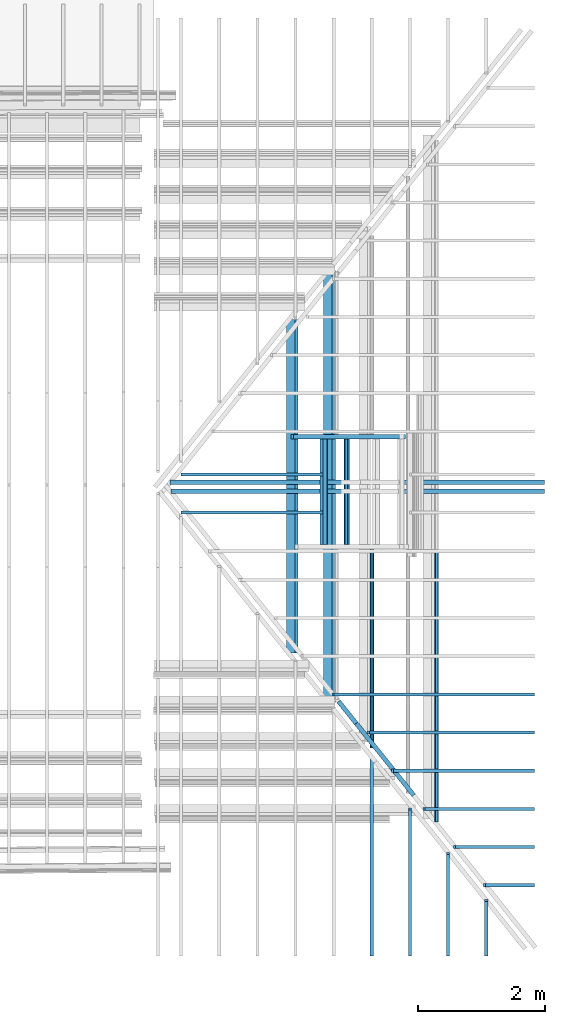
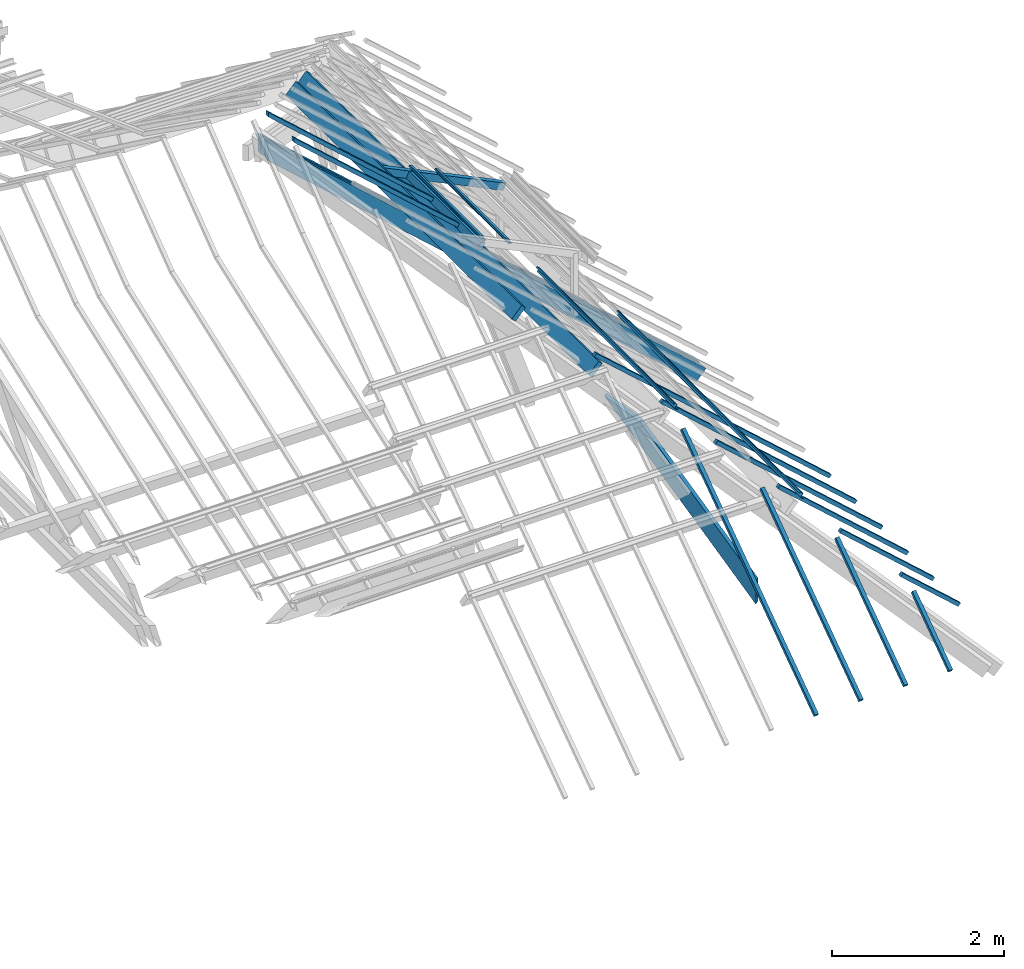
# One storey, part 12 of 18: 23 beams.
"""IFC2X3 building model written with IfcOpenShell, lengths in centimetres."""

import ifcopenshell
import ifcopenshell.guid

model = None  # the IFC model being written
_history = None  # IfcOwnerHistory: only IFC2X3 demands one
_inside = {}  # id of a spatial element -> (the spatial element, [elements in it])
_under = {}  # id of a project, library or spatial element -> (it, [spatial elements below it])
_declared = {}  # id of a project -> (the project, [libraries it declares])
_typed = {}  # id of a type object -> (the type object, [elements of that type])
_made_of = {}  # id of a material, layer set ... -> (it, [elements and type objects made of it])


def new_model(schema):
    """Start an empty IFC model of exactly this schema.

    Asked for "IFC4X3", IfcOpenShell would pick the latest addendum, in which some entities
    have other attributes; the version numbers below select the first issue.
    IFC2X3 requires an IfcOwnerHistory on every rooted entity: one is made here for all.
    """
    global model, _history
    if schema == "IFC4X3":
        model = ifcopenshell.file(schema_version=(4, 3, 0, 0))
    else:
        model = ifcopenshell.file(schema=schema)
    _inside.clear()
    _under.clear()
    _declared.clear()
    _typed.clear()
    _made_of.clear()
    _history = None
    if model.schema == "IFC2X3":
        org = make("IfcOrganization", Name="unknown")
        user = make(
            "IfcPersonAndOrganization",
            ThePerson=make("IfcPerson", FamilyName="unknown"),
            TheOrganization=org,
        )
        app = make(
            "IfcApplication",
            ApplicationDeveloper=org,
            Version="unknown",
            ApplicationFullName="unknown",
            ApplicationIdentifier="unknown",
        )
        _history = make(
            "IfcOwnerHistory",
            OwningUser=user,
            OwningApplication=app,
            ChangeAction="ADDED",
            CreationDate=0,
        )
    return model


def make(cls, **values):
    """One entity of the class cls with the attributes given. An attribute that is None is left unset."""
    return model.create_entity(
        cls, **{name: value for name, value in values.items() if value is not None}
    )


def entity(cls, *values):
    """Any entity or typed value of the class cls, its attributes in the order of the schema. None: left unset."""
    e = model.create_entity(cls)
    for i, value in enumerate(values):
        if value is not None:
            e[i] = value
    return e


def rooted(cls, **values):
    """An entity with a GlobalId (a new one), such as an element, a storey or a relation."""
    return make(cls, GlobalId=ifcopenshell.guid.new(), OwnerHistory=_history, **values)


def si_unit(unit_type, name, prefix=None):
    """IfcSIUnit, for example si_unit("LENGTHUNIT", "METRE", prefix="MILLI")."""
    return make("IfcSIUnit", UnitType=unit_type, Prefix=prefix, Name=name)


def converted_unit(unit_type, name, factor, base, dimensions=None, offset=None):
    """IfcConversionBasedUnit, such as the inch: factor (a typed value) times the base unit."""
    return make(
        "IfcConversionBasedUnit"
        if offset is None
        else "IfcConversionBasedUnitWithOffset",
        ConversionOffset=offset,
        Dimensions=None
        if dimensions is None
        else entity("IfcDimensionalExponents", *dimensions),
        UnitType=unit_type,
        Name=name,
        ConversionFactor=make(
            "IfcMeasureWithUnit", ValueComponent=factor, UnitComponent=base
        ),
    )


def assignment(units):
    """IfcUnitAssignment: the units of a project."""
    return None if units is None else make("IfcUnitAssignment", Units=units)


def point(xyz):
    """IfcCartesianPoint."""
    return None if xyz is None else make("IfcCartesianPoint", Coordinates=xyz)


def direction(xyz):
    """IfcDirection."""
    return None if xyz is None else make("IfcDirection", DirectionRatios=xyz)


def frame(location, z_axis=None, x_axis=None):
    """IfcAxis2Placement3D, a coordinate frame: its origin and axes. An axis left out is left unset."""
    return make(
        "IfcAxis2Placement3D",
        Location=point(location),
        Axis=direction(z_axis),
        RefDirection=direction(x_axis),
    )


def frame_2d(location, x_axis=None):
    """IfcAxis2Placement2D, a coordinate frame in the plane: its origin and x axis."""
    return make(
        "IfcAxis2Placement2D", Location=point(location), RefDirection=direction(x_axis)
    )


def origin():
    """The frame at (0, 0, 0) with its axes left unset."""
    return frame((0.0, 0.0, 0.0))


def place(relative_to, where):
    """IfcLocalPlacement: puts the frame where relative to a parent placement (None: the world)."""
    return make(
        "IfcLocalPlacement", PlacementRelTo=relative_to, RelativePlacement=where
    )


def context(
    kind, dimensions, precision=None, world=None, true_north=None, identifier=None
):
    """IfcGeometricRepresentationContext, for example the 3D "Model" context."""
    return make(
        "IfcGeometricRepresentationContext",
        ContextIdentifier=identifier,
        ContextType=kind,
        CoordinateSpaceDimension=dimensions,
        Precision=precision,
        WorldCoordinateSystem=world,
        TrueNorth=true_north,
    )


def subcontext(parent, identifier, kind, view, scale=None):
    """IfcGeometricRepresentationSubContext, for example "Body" below "Model"."""
    return make(
        "IfcGeometricRepresentationSubContext",
        ContextIdentifier=identifier,
        ContextType=kind,
        ParentContext=parent,
        TargetScale=scale,
        TargetView=view,
    )


def project(units=None, contexts=None):
    """IfcProject with its units and contexts."""
    return rooted(
        "IfcProject",
        Name="project",
        RepresentationContexts=contexts,
        UnitsInContext=assignment(units),
    )


def spatial(cls, under=None, at=None, **own):
    """A site, building, storey or space (cls), placed at a placement, below another one or the project."""
    s = rooted(cls, ObjectPlacement=at, **own)
    if under is not None:
        _under.setdefault(under.id(), (under, []))[1].append(s)
    return s


def polyline(points):
    """IfcPolyline through the points."""
    return make("IfcPolyline", Points=[point(p) for p in points])


def circle_curve(where, radius):
    """IfcCircle in the frame where."""
    return make("IfcCircle", Position=where, Radius=radius)


def parameter(value):
    """IfcParameterValue: where a trimmed curve begins or ends, as a parameter of its basis curve."""
    return model.create_entity("IfcParameterValue", value)


def trimmed(basis, trim1, trim2, sense, master):
    """IfcTrimmedCurve: the piece of a basis curve between two trims."""
    return make(
        "IfcTrimmedCurve",
        BasisCurve=basis,
        Trim1=trim1,
        Trim2=trim2,
        SenseAgreement=sense,
        MasterRepresentation=master,
    )


def segment(curve, same_sense, transition):
    """IfcCompositeCurveSegment."""
    return make(
        "IfcCompositeCurveSegment",
        Transition=transition,
        SameSense=same_sense,
        ParentCurve=curve,
    )


def composite_curve(segments, self_intersect=None):
    """IfcCompositeCurve: segments joined end to end."""
    return make("IfcCompositeCurve", Segments=segments, SelfIntersect=self_intersect)


def profile(cls, at=None, kind="AREA", **sizes):
    """A parametric profile (cls). Its sizes go by their IFC names, for example OverallWidth=200.0."""
    return make(cls, ProfileType=kind, Position=at, **sizes)


def rectangle(**sizes):
    """IfcRectangleProfileDef."""
    return profile("IfcRectangleProfileDef", **sizes)


def outline(outer, holes=None, kind="AREA"):
    """IfcArbitraryClosedProfileDef: a profile drawn as a closed curve; with holes, ...WithVoids."""
    if holes is None:
        return make("IfcArbitraryClosedProfileDef", ProfileType=kind, OuterCurve=outer)
    return make(
        "IfcArbitraryProfileDefWithVoids",
        ProfileType=kind,
        OuterCurve=outer,
        InnerCurves=holes,
    )


def extrude(swept, where, along, depth):
    """IfcExtrudedAreaSolid: the profile swept, set in the frame where, extruded along a direction by depth."""
    return make(
        "IfcExtrudedAreaSolid",
        SweptArea=swept,
        Position=where,
        ExtrudedDirection=direction(along),
        Depth=depth,
    )


def clip(a, b, op="DIFFERENCE"):
    """IfcBooleanClippingResult: the solid a cut by the half space b."""
    return make(
        "IfcBooleanClippingResult", Operator=op, FirstOperand=a, SecondOperand=b
    )


def halfspace(plane, agree):
    """IfcHalfSpaceSolid: all space on one side of the plane z = 0 of the frame plane."""
    return make(
        "IfcHalfSpaceSolid",
        BaseSurface=make("IfcPlane", Position=plane),
        AgreementFlag=agree,
    )


def shape(context_of_items, identifier, shape_type, items):
    """IfcShapeRepresentation: the items that make up one representation, for example the "Body"."""
    return make(
        "IfcShapeRepresentation",
        ContextOfItems=context_of_items,
        RepresentationIdentifier=identifier,
        RepresentationType=shape_type,
        Items=items,
    )


def material(Name=None, Category=None):
    """IfcMaterial."""
    return make("IfcMaterial", Name=Name, Category=Category)


def made_of(thing, what):
    """Note that an element or type object is made of a material, layer set ...; save() writes the relation."""
    if what is not None:
        _made_of.setdefault(what.id(), (what, []))[1].append(thing)
    return thing


def type_object(cls, material=None, **own):
    """A type object (cls), such as IfcWallType, which elements share."""
    return made_of(rooted(cls, **own), material)


def element(
    cls,
    number,
    at=None,
    inside=None,
    cuts=None,
    type_object=None,
    material=None,
    context=None,
    identifier="Body",
    shape_type=None,
    held_by="IfcProductDefinitionShape",
    body=None,
    shapes=None,
    **own,
):
    """One element of the class cls, such as IfcWall. Its Tag is "e" and its number.

    at: its placement. inside: the storey or other place that contains it. cuts: it is an
    opening in that element (IfcRelVoidsElement). A single representation is given by context,
    identifier, shape_type and body (its items); several are given by shapes. held_by: the class
    of the entity that holds the representations. save() writes the other relations.
    """
    e = rooted(cls, Tag="e%d" % number, ObjectPlacement=at, **own)
    if body is not None:
        shapes = [shape(context, identifier, shape_type, body)]
    if shapes is not None:
        e.Representation = make(held_by, Representations=shapes)
    if inside is not None:
        _inside.setdefault(inside.id(), (inside, []))[1].append(e)
    if cuts is not None:
        rooted(
            "IfcRelVoidsElement", RelatingBuildingElement=cuts, RelatedOpeningElement=e
        )
    if type_object is not None:
        _typed.setdefault(type_object.id(), (type_object, []))[1].append(e)
    return made_of(e, material)


def aggregate(whole, parts):
    """IfcRelAggregates: a whole, such as a stair, and the parts it consists of."""
    return rooted("IfcRelAggregates", RelatingObject=whole, RelatedObjects=parts)


def save(model, path):
    """Write the relations noted so far, then the file.

    IfcRelAggregates (storeys below a building ...), IfcRelContainedInSpatialStructure (elements
    in a storey), IfcRelDefinesByType, IfcRelAssociatesMaterial and IfcRelDeclares: one each for
    every whole, place, type object, material and project.
    """
    for whole, parts in _under.values():
        aggregate(whole, parts)
    for where, things in _inside.values():
        rooted(
            "IfcRelContainedInSpatialStructure",
            RelatedElements=things,
            RelatingStructure=where,
        )
    for kind, things in _typed.values():
        rooted("IfcRelDefinesByType", RelatedObjects=things, RelatingType=kind)
    for what, things in _made_of.values():
        rooted("IfcRelAssociatesMaterial", RelatedObjects=things, RelatingMaterial=what)
    for by, libraries in _declared.values():
        rooted("IfcRelDeclares", RelatingContext=by, RelatedDefinitions=libraries)
    model.write(path)


model = new_model("IFC2X3")

# Units and contexts
model_context = context("Model", 3, precision=0.001, world=frame((0.0, 0.0, 13090.0)), true_north=direction((6.123233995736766e-17, 1.0)))
body_context = subcontext(model_context, "Body", "Model", "MODEL_VIEW")
ifc_project = project(units=[si_unit("LENGTHUNIT", "METRE", prefix="CENTI"), si_unit("AREAUNIT", "SQUARE_METRE"), si_unit("VOLUMEUNIT", "CUBIC_METRE"), converted_unit("PLANEANGLEUNIT", "DEGREE", entity("IfcPlaneAngleMeasure", 0.017453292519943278), si_unit("PLANEANGLEUNIT", "RADIAN"), dimensions=[0, 0, 0, 0, 0, 0, 0])], contexts=[model_context])

# Site, building, storey
site_placement = place(None, origin())
site = spatial("IfcSite", under=ifc_project, at=site_placement, Name="Default", CompositionType="ELEMENT")
building_placement = place(site_placement, origin())
building = spatial("IfcBuilding", under=site, at=building_placement, Name="e 39 logements et 22 maisons relais", CompositionType="ELEMENT")
storey_placement = place(building_placement, frame((0.0, 0.0, 610.0)))
storey = spatial("IfcBuildingStorey", under=building, at=storey_placement, Name="R+2", CompositionType="ELEMENT", Elevation=609.9999999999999)

# Beams
ifc_material_1 = material(Name="Bois - Bois de construction de dimensions courantes")
beam_type_1 = type_object("IfcBeamType", Name="Poutre - Bois de construction de dimensions courantes:70 200", PredefinedType="BEAM")
beam_1_placement = place(storey_placement, frame((890.6780898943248, 514.007667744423, 25.511644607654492), z_axis=(0.0, 0.0, 1.0), x_axis=(0.0, -1.0, 0.0)))
element("IfcBeam", 1, at=beam_1_placement, inside=storey, type_object=beam_type_1, material=ifc_material_1, Name="Poutre - Bois de construction de dimensions courantes:70 200", ObjectType="Poutre - Bois de construction de dimensions courantes:70 200", context=body_context, shape_type="SweptSolid", body=[
    extrude(rectangle(XDim=19.999999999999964, YDim=7.00000000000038, at=frame_2d((-7.616129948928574e-14, 4.440892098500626e-15), x_axis=(0.0, 1.0))), frame((196.89081058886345, -6.691306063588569, -7.4314482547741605), z_axis=(1.0, 0.0, 0.0), x_axis=(0.0, -0.7431448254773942, 0.6691306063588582)), (0.0, 0.0, 1.0), 679.5707975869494),
])
beam_2_placement = place(storey_placement, frame((832.2466658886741, 514.0076677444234, 77.90330575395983), z_axis=(0.0, 0.0, 1.0), x_axis=(0.0, -1.0, 0.0)))
element("IfcBeam", 2, at=beam_2_placement, inside=storey, type_object=beam_type_1, material=ifc_material_1, Name="Poutre - Bois de construction de dimensions courantes:70 200", ObjectType="Poutre - Bois de construction de dimensions courantes:70 200", context=body_context, shape_type="SweptSolid", body=[
    extrude(rectangle(XDim=19.999999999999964, YDim=7.000000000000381, at=frame_2d((7.616129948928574e-14, -4.440892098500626e-15), x_axis=(0.0, 1.0))), frame((273.8319101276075, -6.691306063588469, -7.4314482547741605), z_axis=(1.0, 0.0, 0.0), x_axis=(0.0, -0.7431448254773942, 0.6691306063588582)), (0.0, 0.0, 1.0), 524.8274133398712),
])
beam_3_placement = place(storey_placement, frame((1011.2170060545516, -501.6326408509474, -92.30873544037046), z_axis=(0.9252385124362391, 0.19438072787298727, 0.3258064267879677), x_axis=(-0.37938594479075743, 0.47405165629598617, 0.7945699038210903)))
element("IfcBeam", 3, at=beam_3_placement, inside=storey, type_object=beam_type_1, material=ifc_material_1, Name="Poutre - Bois de construction de dimensions courantes:70 200", ObjectType="Poutre - Bois de construction de dimensions courantes:70 200", context=body_context, shape_type="Clipping", body=[
    clip(clip(extrude(rectangle(XDim=19.999999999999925, YDim=7.000000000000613, at=frame_2d((-3.375077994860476e-14, -3.375077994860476e-14), x_axis=(0.0, 1.0))), frame((-146.96962917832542, -77.6332145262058, -49.36683099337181), z_axis=(1.0, 0.0, 0.0), x_axis=(0.0, -0.5365959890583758, 0.8438392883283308)), (0.0, 0.0, 1.0), 310.9770128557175), halfspace(frame((-76.83597434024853, 228.07675023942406, -448.88018274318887), z_axis=(-0.6071726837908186, 0.6704893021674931, 0.42636302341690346), x_axis=(0.0, -0.5365959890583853, 0.8438392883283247)), False)), halfspace(frame((73.5846626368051, -322.24935751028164, 388.99597962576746), z_axis=(0.3943864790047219, 0.7754416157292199, 0.493102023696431), x_axis=(0.0, 0.5365959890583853, -0.8438392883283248)), False)),
])
beam_4_placement = place(storey_placement, frame((1102.5040541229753, -15.897903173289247, -54.28361156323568), z_axis=(0.66757939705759, 0.0, 0.7445386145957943), x_axis=(-0.7445386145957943, 0.0, 0.66757939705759)))
element("IfcBeam", 4, at=beam_4_placement, inside=storey, type_object=beam_type_1, material=ifc_material_1, Name="Poutre - Bois de construction de dimensions courantes:70 200", ObjectType="Poutre - Bois de construction de dimensions courantes:70 200", context=body_context, shape_type="Clipping", body=[
    clip(extrude(rectangle(XDim=20.000000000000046, YDim=7.000000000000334, at=frame_2d((8.08242361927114e-14, -1.7763568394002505e-15), x_axis=(1.0, 0.0))), frame((-252.47009132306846, 0.0, -112.0), z_axis=(1.0, 0.0, 0.0), x_axis=(0.0, 0.0, -1.0)), (0.0, 0.0, 1.0), 791.604308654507), halfspace(frame((507.028500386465, 830.52348777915, -137.70467255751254), z_axis=(0.743589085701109, 0.0, -0.6686368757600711), x_axis=(0.0, -1.0, 0.0)), False)),
])
beam_5_placement = place(storey_placement, frame((1117.3037354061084, -29.897903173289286, -40.69125047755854), z_axis=(0.6675793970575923, 0.0, 0.7445386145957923), x_axis=(-0.7445386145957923, 0.0, 0.6675793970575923)))
element("IfcBeam", 5, at=beam_5_placement, inside=storey, type_object=beam_type_1, material=ifc_material_1, Name="Poutre - Bois de construction de dimensions courantes:70 200", ObjectType="Poutre - Bois de construction de dimensions courantes:70 200", context=body_context, shape_type="Clipping", body=[
    clip(extrude(rectangle(XDim=20.00000000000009, YDim=7.000000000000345, at=frame_2d((-9.237055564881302e-14, -6.8833827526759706e-15), x_axis=(1.0, 0.0))), frame((-250.55143447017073, 0.0, -132.0), z_axis=(1.0, 0.0, 0.0), x_axis=(0.0, 0.0, -1.0)), (0.0, 0.0, 1.0), 789.6856518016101), halfspace(frame((507.0285003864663, 828.6048309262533, -157.70467255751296), z_axis=(0.7435890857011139, 0.0, -0.6686368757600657), x_axis=(0.0, -1.0, 0.0)), False)),
])
beam_type_2 = type_object("IfcBeamType", Name="Poutre - Bois de construction de dimensions courantes:70 100", PredefinedType="BEAM")
beam_6_placement = place(storey_placement, frame((1003.4066515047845, 55.70209682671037, 77.53294707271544), z_axis=(0.43504605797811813, 0.0, 0.9004082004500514), x_axis=(-0.9004082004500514, 0.0, 0.43504605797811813)))
element("IfcBeam", 6, at=beam_6_placement, inside=storey, type_object=beam_type_2, material=ifc_material_1, Name="Poutre - Bois de construction de dimensions courantes:70 100", ObjectType="Poutre - Bois de construction de dimensions courantes:70 100", context=body_context, shape_type="SweptSolid", body=[
    extrude(rectangle(XDim=10.000000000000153, YDim=7.00000000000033, at=frame_2d((-9.592326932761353e-14, -3.3306690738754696e-15), x_axis=(1.0, 0.0))), frame((-38.964063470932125, 0.0, -85.0), z_axis=(1.0, 0.0, 0.0), x_axis=(0.0, 0.0, -1.0)), (0.0, 0.0, 1.0), 195.503569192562),
])
beam_7_placement = place(storey_placement, frame((912.0134859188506, 147.73427520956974, 123.93431916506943), z_axis=(0.0, 0.0, 1.0), x_axis=(0.0, -1.0, 0.0)))
element("IfcBeam", 7, at=beam_7_placement, inside=storey, type_object=beam_type_2, material=ifc_material_1, Name="Poutre - Bois de construction de dimensions courantes:70 100", ObjectType="Poutre - Bois de construction de dimensions courantes:70 100", context=body_context, shape_type="SweptSolid", body=[
    extrude(rectangle(XDim=10.000000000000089, YDim=7.000000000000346, at=frame_2d((-9.50350909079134e-14, 7.460698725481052e-14), x_axis=(0.0, 1.0))), frame((95.56011376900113, -37.454465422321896, -78.52491973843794), z_axis=(1.0, 0.0, 0.0), x_axis=(0.0, -0.902585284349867, 0.43051109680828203)), (0.0, 0.0, 1.0), 165.75517344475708),
])
ifc_material_2 = material(Name="neuf")
beam_type_3 = type_object("IfcBeamType", Name="panne z:panne z", PredefinedType="BEAM")
beam_8_placement = place(storey_placement, frame((963.2348899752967, 514.0076677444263, -1.0400346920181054), z_axis=(0.0, 0.0, 1.0), x_axis=(0.0, -1.0, 0.0)))
element("IfcBeam", 8, at=beam_8_placement, inside=storey, type_object=beam_type_3, material=ifc_material_2, Name="panne z:panne z", ObjectType="panne z:panne z", context=body_context, shape_type="SweptSolid", body=[
    extrude(outline(composite_curve([segment(polyline([(0.29999999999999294, -3.0), (4.599999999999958, -3.0)]), True, "CONTINUOUS"), segment(trimmed(circle_curve(frame_2d((4.600000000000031, -2.5999999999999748), x_axis=(0.0, -1.0)), 0.399999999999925), [parameter(0.0)], [parameter(90.000000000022)], True, "PARAMETER"), True, "CONTINUOUS"), segment(polyline([(5.0, -2.5999999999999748), (5.0, -1.0)]), True, "CONTINUOUS"), segment(polyline([(5.0, -1.0), (4.800000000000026, -1.0)]), True, "CONTINUOUS"), segment(polyline([(4.800000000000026, -1.0), (4.800000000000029, -2.599999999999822)]), True, "CONTINUOUS"), segment(trimmed(circle_curve(frame_2d((4.599999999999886, -2.599999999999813), x_axis=(1.0, 0.0)), 0.20000000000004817), [parameter(270.0000000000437)], [parameter(0.0)], True, "PARAMETER"), False, "CONTINUOUS"), segment(polyline([(4.600000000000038, -2.7999999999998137), (0.30000000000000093, -2.7999999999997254)]), True, "CONTINUOUS"), segment(trimmed(circle_curve(frame_2d((0.2999999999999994, -2.5999999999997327), x_axis=(0.0, -1.0)), 0.2000000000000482), [parameter(270.0000000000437)], [parameter(0.0)], True, "PARAMETER"), False, "CONTINUOUS"), segment(polyline([(0.1000000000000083, -2.5999999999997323), (0.10000000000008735, 2.6000000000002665)]), True, "CONTINUOUS"), segment(trimmed(circle_curve(frame_2d((-0.2999999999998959, 2.6000000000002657), x_axis=(1.0, 0.0)), 0.399999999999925), [parameter(0.0)], [parameter(90.000000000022)], True, "PARAMETER"), True, "CONTINUOUS"), segment(polyline([(-0.29999999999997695, 3.0), (-4.599999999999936, 3.0)]), True, "CONTINUOUS"), segment(trimmed(circle_curve(frame_2d((-4.6000000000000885, 2.6000000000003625), x_axis=(0.0, 1.0)), 0.399999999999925), [parameter(0.0)], [parameter(90.000000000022)], True, "PARAMETER"), True, "CONTINUOUS"), segment(polyline([(-5.0, 2.6000000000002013), (-5.0, 1.0)]), True, "CONTINUOUS"), segment(polyline([(-5.0, 1.0), (-4.7999999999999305, 1.0)]), True, "CONTINUOUS"), segment(polyline([(-4.7999999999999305, 1.0), (-4.799999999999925, 2.600000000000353)]), True, "CONTINUOUS"), segment(trimmed(circle_curve(frame_2d((-4.599999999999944, 2.6000000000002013), x_axis=(-1.0, 0.0)), 0.20000000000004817), [parameter(270.0000000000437)], [parameter(0.0)], True, "PARAMETER"), False, "CONTINUOUS"), segment(polyline([(-4.599999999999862, 2.8000000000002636), (-0.29999999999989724, 2.8000000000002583)]), True, "CONTINUOUS"), segment(trimmed(circle_curve(frame_2d((-0.3000000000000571, 2.6000000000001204), x_axis=(0.0, 1.0)), 0.2000000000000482), [parameter(270.0000000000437)], [parameter(0.0)], True, "PARAMETER"), False, "CONTINUOUS"), segment(polyline([(-0.09999999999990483, 2.6000000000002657), (-0.0999999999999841, -2.5999999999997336)]), True, "CONTINUOUS"), segment(trimmed(circle_curve(frame_2d((0.2999999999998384, -2.599999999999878), x_axis=(-1.0, 0.0)), 0.399999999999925), [parameter(0.0)], [parameter(90.000000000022)], True, "PARAMETER"), True, "CONTINUOUS")], self_intersect=False)), frame((627.6166151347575, -12.500988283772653, -13.883754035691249), z_axis=(1.0, 0.0, 0.0), x_axis=(0.0, -0.7431448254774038, 0.6691306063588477)), (0.0, 0.0, 1.0), 320.0905581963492),
])
beam_9_placement = place(storey_placement, frame((919.2018570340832, 514.0076677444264, 55.580776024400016), z_axis=(0.0, 0.0, 1.0), x_axis=(0.0, -1.0, 0.0)))
element("IfcBeam", 9, at=beam_9_placement, inside=storey, type_object=beam_type_3, material=ifc_material_2, Name="panne z:panne z", ObjectType="panne z:panne z", context=body_context, shape_type="SweptSolid", body=[
    extrude(outline(composite_curve([segment(polyline([(0.30000000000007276, -3.0), (4.600000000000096, -3.0)]), True, "CONTINUOUS"), segment(trimmed(circle_curve(frame_2d((4.600000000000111, -2.599999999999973), x_axis=(0.0, -1.0)), 0.3999999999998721), [parameter(0.0)], [parameter(90.0000000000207)], True, "PARAMETER"), True, "CONTINUOUS"), segment(polyline([(5.0, -2.600000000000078), (5.0, -1.0)]), True, "CONTINUOUS"), segment(polyline([(5.0, -1.0), (4.8000000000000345, -1.0)]), True, "CONTINUOUS"), segment(polyline([(4.800000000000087, -1.0), (4.8000000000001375, -2.5999999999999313)]), True, "CONTINUOUS"), segment(trimmed(circle_curve(frame_2d((4.600000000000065, -2.599999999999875), x_axis=(1.0, 0.0)), 0.20000000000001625), [parameter(269.9999999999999)], [parameter(0.0)], True, "PARAMETER"), False, "CONTINUOUS"), segment(polyline([(4.600000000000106, -2.799999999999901), (0.30000000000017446, -2.800000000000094)]), True, "CONTINUOUS"), segment(trimmed(circle_curve(frame_2d((0.3000000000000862, -2.59999999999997), x_axis=(0.0, -1.0)), 0.20000000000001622), [parameter(269.9999999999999)], [parameter(0.0)], True, "PARAMETER"), False, "CONTINUOUS"), segment(polyline([(0.10000000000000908, -2.6000000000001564), (0.09999999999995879, 2.5999999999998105)]), True, "CONTINUOUS"), segment(trimmed(circle_curve(frame_2d((-0.29999999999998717, 2.600000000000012), x_axis=(1.0, 0.0)), 0.3999999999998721), [parameter(0.0)], [parameter(90.0000000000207)], True, "PARAMETER"), True, "CONTINUOUS"), segment(polyline([(-0.3000000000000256, 3.0), (-4.600000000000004, 3.0)]), True, "CONTINUOUS"), segment(trimmed(circle_curve(frame_2d((-4.60000000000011, 2.5999999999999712), x_axis=(0.0, 1.0)), 0.3999999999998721), [parameter(0.0)], [parameter(90.0000000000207)], True, "PARAMETER"), True, "CONTINUOUS"), segment(polyline([(-5.0, 2.5999999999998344), (-5.0, 1.0)]), True, "CONTINUOUS"), segment(polyline([(-5.0, 1.0), (-4.799999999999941, 1.0)]), True, "CONTINUOUS"), segment(polyline([(-4.80000000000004, 1.0), (-4.800000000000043, 2.5999999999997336)]), True, "CONTINUOUS"), segment(trimmed(circle_curve(frame_2d((-4.600000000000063, 2.5999999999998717), x_axis=(-1.0, 0.0)), 0.20000000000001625), [parameter(269.9999999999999)], [parameter(0.0)], True, "PARAMETER"), False, "CONTINUOUS"), segment(polyline([(-4.600000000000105, 2.799999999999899), (-0.3000000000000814, 2.7999999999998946)]), True, "CONTINUOUS"), segment(trimmed(circle_curve(frame_2d((-0.3000000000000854, 2.599999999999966), x_axis=(0.0, 1.0)), 0.20000000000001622), [parameter(269.9999999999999)], [parameter(0.0)], True, "PARAMETER"), False, "CONTINUOUS"), segment(polyline([(-0.1000000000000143, 2.5999999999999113), (-0.09999999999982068, -2.6000000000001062)]), True, "CONTINUOUS"), segment(trimmed(circle_curve(frame_2d((0.2999999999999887, -2.6000000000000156), x_axis=(-1.0, 0.0)), 0.3999999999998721), [parameter(0.0)], [parameter(90.0000000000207)], True, "PARAMETER"), True, "CONTINUOUS")], self_intersect=False)), frame((461.8055709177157, -7.895537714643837, -16.932035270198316), z_axis=(1.0, 0.0, 0.0), x_axis=(0.0, -0.9063077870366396, 0.42261826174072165)), (0.0, 0.0, 1.0), 165.81104421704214),
])
beam_10_placement = place(storey_placement, frame((884.5434101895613, 514.0076677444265, 72.35425786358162), z_axis=(0.0, 0.0, 1.0), x_axis=(0.0, -1.0, 0.0)))
element("IfcBeam", 10, at=beam_10_placement, inside=storey, type_object=beam_type_3, material=ifc_material_2, Name="panne z:panne z", ObjectType="panne z:panne z", context=body_context, shape_type="SweptSolid", body=[
    extrude(outline(composite_curve([segment(polyline([(0.3000000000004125, -3.0), (4.600000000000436, -3.0)]), True, "CONTINUOUS"), segment(trimmed(circle_curve(frame_2d((4.600000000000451, -2.599999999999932), x_axis=(0.0, -1.0)), 0.3999999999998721), [parameter(0.0)], [parameter(90.0000000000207)], True, "PARAMETER"), True, "CONTINUOUS"), segment(polyline([(5.0, -2.600000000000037), (5.0, -1.0)]), True, "CONTINUOUS"), segment(polyline([(5.0, -1.0), (4.800000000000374, -1.0)]), True, "CONTINUOUS"), segment(polyline([(4.800000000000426, -1.0), (4.800000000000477, -2.599999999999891)]), True, "CONTINUOUS"), segment(trimmed(circle_curve(frame_2d((4.600000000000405, -2.5999999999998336), x_axis=(1.0, 0.0)), 0.20000000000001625), [parameter(269.9999999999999)], [parameter(0.0)], True, "PARAMETER"), False, "CONTINUOUS"), segment(polyline([(4.600000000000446, -2.7999999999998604), (0.3000000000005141, -2.800000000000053)]), True, "CONTINUOUS"), segment(trimmed(circle_curve(frame_2d((0.3000000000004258, -2.599999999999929), x_axis=(0.0, -1.0)), 0.20000000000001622), [parameter(269.9999999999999)], [parameter(0.0)], True, "PARAMETER"), False, "CONTINUOUS"), segment(polyline([(0.10000000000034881, -2.600000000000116), (0.10000000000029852, 2.5999999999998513)]), True, "CONTINUOUS"), segment(trimmed(circle_curve(frame_2d((-0.29999999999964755, 2.600000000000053), x_axis=(1.0, 0.0)), 0.3999999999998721), [parameter(0.0)], [parameter(90.0000000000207)], True, "PARAMETER"), True, "CONTINUOUS"), segment(polyline([(-0.29999999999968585, 3.0), (-4.599999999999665, 3.0)]), True, "CONTINUOUS"), segment(trimmed(circle_curve(frame_2d((-4.59999999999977, 2.6000000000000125), x_axis=(0.0, 1.0)), 0.3999999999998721), [parameter(0.0)], [parameter(90.0000000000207)], True, "PARAMETER"), True, "CONTINUOUS"), segment(polyline([(-5.0, 2.5999999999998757), (-5.0, 1.0)]), True, "CONTINUOUS"), segment(polyline([(-5.0, 1.0), (-4.799999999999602, 1.0)]), True, "CONTINUOUS"), segment(polyline([(-4.7999999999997, 1.0), (-4.799999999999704, 2.599999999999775)]), True, "CONTINUOUS"), segment(trimmed(circle_curve(frame_2d((-4.5999999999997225, 2.5999999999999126), x_axis=(-1.0, 0.0)), 0.20000000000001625), [parameter(269.9999999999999)], [parameter(0.0)], True, "PARAMETER"), False, "CONTINUOUS"), segment(polyline([(-4.599999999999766, 2.7999999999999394), (-0.2999999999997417, 2.799999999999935)]), True, "CONTINUOUS"), segment(trimmed(circle_curve(frame_2d((-0.2999999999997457, 2.600000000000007), x_axis=(0.0, 1.0)), 0.20000000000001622), [parameter(269.9999999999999)], [parameter(0.0)], True, "PARAMETER"), False, "CONTINUOUS"), segment(polyline([(-0.09999999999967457, 2.5999999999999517), (-0.09999999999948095, -2.600000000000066)]), True, "CONTINUOUS"), segment(trimmed(circle_curve(frame_2d((0.30000000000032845, -2.5999999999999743), x_axis=(-1.0, 0.0)), 0.3999999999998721), [parameter(0.0)], [parameter(90.0000000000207)], True, "PARAMETER"), True, "CONTINUOUS")], self_intersect=False)), frame((461.8055709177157, -7.8955377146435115, -16.932035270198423), z_axis=(1.0, 0.0, 0.0), x_axis=(0.0, -0.9063077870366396, 0.42261826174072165)), (0.0, 0.0, 1.0), 165.81104421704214),
])
beam_11_placement = place(storey_placement, frame((1065.052209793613, -46.0923322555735, -92.10594178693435), z_axis=(0.0, 0.0, 1.0), x_axis=(0.0, -1.0, 0.0)))
element("IfcBeam", 11, at=beam_11_placement, inside=storey, type_object=beam_type_3, material=ifc_material_2, Name="panne z:panne z", ObjectType="panne z:panne z", context=body_context, shape_type="SweptSolid", body=[
    extrude(outline(composite_curve([segment(polyline([(0.30000000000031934, -3.0), (4.600000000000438, -3.0)]), True, "CONTINUOUS"), segment(trimmed(circle_curve(frame_2d((4.600000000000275, -2.599999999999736), x_axis=(0.0, -1.0)), 0.3999999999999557), [parameter(0.0)], [parameter(90.0000000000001)], True, "PARAMETER"), True, "CONTINUOUS"), segment(polyline([(5.0, -2.599999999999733), (5.0, -1.0)]), True, "CONTINUOUS"), segment(polyline([(5.0, -1.0), (4.800000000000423, -1.0)]), True, "CONTINUOUS"), segment(polyline([(4.800000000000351, -1.0), (4.800000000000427, -2.59999999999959)]), True, "CONTINUOUS"), segment(trimmed(circle_curve(frame_2d((4.600000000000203, -2.599999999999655), x_axis=(1.0, 0.0)), 0.20000000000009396), [parameter(270.0000000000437)], [parameter(0.0)], True, "PARAMETER"), False, "CONTINUOUS"), segment(polyline([(4.600000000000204, -2.7999999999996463), (0.3000000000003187, -2.799999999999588)]), True, "CONTINUOUS"), segment(trimmed(circle_curve(frame_2d((0.29999999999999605, -2.5999999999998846), x_axis=(0.0, -1.0)), 0.19999999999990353), [parameter(269.9999999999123)], [parameter(0.0)], True, "PARAMETER"), False, "CONTINUOUS"), segment(polyline([(0.10000000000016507, -2.599999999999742), (0.10000000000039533, 2.600000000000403)]), True, "CONTINUOUS"), segment(trimmed(circle_curve(frame_2d((-0.2999999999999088, 2.6000000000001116), x_axis=(1.0, 0.0)), 0.4000000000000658), [parameter(0.0)], [parameter(89.99999999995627)], True, "PARAMETER"), True, "CONTINUOUS"), segment(polyline([(-0.2999999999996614, 3.0), (-4.599999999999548, 3.0)]), True, "CONTINUOUS"), segment(trimmed(circle_curve(frame_2d((-4.599999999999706, 2.600000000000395), x_axis=(0.0, 1.0)), 0.3999999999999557), [parameter(0.0)], [parameter(90.0000000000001)], True, "PARAMETER"), True, "CONTINUOUS"), segment(polyline([(-5.0, 2.6000000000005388), (-5.0, 1.0)]), True, "CONTINUOUS"), segment(polyline([(-5.0, 1.0), (-4.799999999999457, 1.0)]), True, "CONTINUOUS"), segment(polyline([(-4.7999999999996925, 1.0), (-4.799999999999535, 2.6000000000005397)]), True, "CONTINUOUS"), segment(trimmed(circle_curve(frame_2d((-4.599999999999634, 2.600000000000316), x_axis=(-1.0, 0.0)), 0.20000000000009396), [parameter(270.0000000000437)], [parameter(0.0)], True, "PARAMETER"), False, "CONTINUOUS"), segment(polyline([(-4.5999999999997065, 2.8000000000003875), (-0.2999999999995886, 2.8000000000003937)]), True, "CONTINUOUS"), segment(trimmed(circle_curve(frame_2d((-0.2999999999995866, 2.6000000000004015), x_axis=(0.0, 1.0)), 0.19999999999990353), [parameter(269.9999999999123)], [parameter(0.0)], True, "PARAMETER"), False, "CONTINUOUS"), segment(polyline([(-0.09999999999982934, 2.600000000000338), (-0.09999999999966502, -2.5999999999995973)]), True, "CONTINUOUS"), segment(trimmed(circle_curve(frame_2d((0.3000000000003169, -2.5999999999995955), x_axis=(-1.0, 0.0)), 0.4000000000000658), [parameter(0.0)], [parameter(89.99999999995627)], True, "PARAMETER"), True, "CONTINUOUS")], self_intersect=False)), frame((78.31661513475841, -12.50098828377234, -13.883754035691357), z_axis=(1.0, 0.0, 0.0), x_axis=(0.0, -0.7431448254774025, 0.669130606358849)), (0.0, 0.0, 1.0), 425.78267221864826),
])
beam_type_4 = type_object("IfcBeamType", Name="Poutre - Bois de construction de dimensions courantes:50 50", PredefinedType="BEAM")
beam_12_placement = place(storey_placement, frame((1106.4970157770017, -63.70894739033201, -51.16941067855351), z_axis=(0.6684032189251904, 0.0, 0.7437991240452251), x_axis=(-0.7437991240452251, 0.0, 0.6684032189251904)))
element("IfcBeam", 12, at=beam_12_placement, inside=storey, type_object=beam_type_4, material=ifc_material_1, Name="Poutre - Bois de construction de dimensions courantes:50 50", ObjectType="Poutre - Bois de construction de dimensions courantes:50 50", context=body_context, shape_type="Clipping", body=[
    clip(extrude(rectangle(XDim=4.999999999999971, YDim=5.000000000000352, at=frame_2d((4.0190073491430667e-14, -1.354472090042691e-14), x_axis=(1.0, 0.0))), frame((239.0440673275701, 0.0, -84.50000000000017), z_axis=(1.0, 0.0, 0.0), x_axis=(0.0, 0.0, -1.0)), (0.0, 0.0, 1.0), 300.09015000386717), halfspace(frame((507.02850038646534, 578.0270993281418, -117.7046725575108), z_axis=(0.7435890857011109, 0.0, -0.668636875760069), x_axis=(0.0, -1.0, 0.0)), False)),
])
beam_13_placement = place(storey_placement, frame((1106.439839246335, -349.5979031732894, -51.09700593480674), z_axis=(0.6675793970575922, 0.0, 0.7445386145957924), x_axis=(-0.7445386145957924, 0.0, 0.6675793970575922)))
element("IfcBeam", 13, at=beam_13_placement, inside=storey, type_object=beam_type_4, material=ifc_material_1, Name="Poutre - Bois de construction de dimensions courantes:50 50", ObjectType="Poutre - Bois de construction de dimensions courantes:50 50", context=body_context, shape_type="SweptSolid", body=[
    extrude(rectangle(XDim=5.000000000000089, YDim=5.000000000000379, at=frame_2d((0.0, 2.708944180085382e-14), x_axis=(1.0, 0.0))), frame((-208.06330346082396, 0.0, -84.50000000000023), z_axis=(1.0, 0.0, 0.0), x_axis=(0.0, 0.0, -1.0)), (0.0, 0.0, 1.0), 423.3640174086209),
])
beam_14_placement = place(storey_placement, frame((1106.439839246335, -409.5979031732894, -51.09700593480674), z_axis=(0.6675793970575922, 0.0, 0.7445386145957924), x_axis=(-0.7445386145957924, 0.0, 0.6675793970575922)))
element("IfcBeam", 14, at=beam_14_placement, inside=storey, type_object=beam_type_4, material=ifc_material_1, Name="Poutre - Bois de construction de dimensions courantes:50 50", ObjectType="Poutre - Bois de construction de dimensions courantes:50 50", context=body_context, shape_type="SweptSolid", body=[
    extrude(rectangle(XDim=5.000000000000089, YDim=5.000000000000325, at=frame_2d((1.5298873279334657e-13, 0.0), x_axis=(1.0, 0.0))), frame((-208.06330346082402, 0.0, -84.50000000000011), z_axis=(1.0, 0.0, 0.0), x_axis=(0.0, 0.0, -1.0)), (0.0, 0.0, 1.0), 349.23966282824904),
])
beam_15_placement = place(storey_placement, frame((1106.439839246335, -469.5979031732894, -51.09700593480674), z_axis=(0.6675793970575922, 0.0, 0.7445386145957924), x_axis=(-0.7445386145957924, 0.0, 0.6675793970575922)))
element("IfcBeam", 15, at=beam_15_placement, inside=storey, type_object=beam_type_4, material=ifc_material_1, Name="Poutre - Bois de construction de dimensions courantes:50 50", ObjectType="Poutre - Bois de construction de dimensions courantes:50 50", context=body_context, shape_type="SweptSolid", body=[
    extrude(rectangle(XDim=5.000000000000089, YDim=5.000000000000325, at=frame_2d((1.127986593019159e-13, 0.0), x_axis=(1.0, 0.0))), frame((-208.06330346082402, 0.0, -84.50000000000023), z_axis=(1.0, 0.0, 0.0), x_axis=(0.0, 0.0, -1.0)), (0.0, 0.0, 1.0), 297.81058500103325),
])
beam_16_placement = place(storey_placement, frame((1106.4398392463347, -529.5979031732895, -51.09700593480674), z_axis=(0.6675793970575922, 0.0, 0.7445386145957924), x_axis=(-0.7445386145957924, 0.0, 0.6675793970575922)))
element("IfcBeam", 16, at=beam_16_placement, inside=storey, type_object=beam_type_4, material=ifc_material_1, Name="Poutre - Bois de construction de dimensions courantes:50 50", ObjectType="Poutre - Bois de construction de dimensions courantes:50 50", context=body_context, shape_type="SweptSolid", body=[
    extrude(rectangle(XDim=5.000000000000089, YDim=5.000000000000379, at=frame_2d((-1.127986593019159e-13, -5.417888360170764e-14), x_axis=(1.0, 0.0))), frame((-208.06330346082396, 0.0, -84.50000000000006), z_axis=(1.0, 0.0, 0.0), x_axis=(0.0, 0.0, -1.0)), (0.0, 0.0, 1.0), 231.80623395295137),
])
beam_17_placement = place(storey_placement, frame((1106.4398392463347, -589.5979031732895, -51.09700593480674), z_axis=(0.6675793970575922, 0.0, 0.7445386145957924), x_axis=(-0.7445386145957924, 0.0, 0.6675793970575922)))
element("IfcBeam", 17, at=beam_17_placement, inside=storey, type_object=beam_type_4, material=ifc_material_1, Name="Poutre - Bois de construction de dimensions courantes:50 50", ObjectType="Poutre - Bois de construction de dimensions courantes:50 50", context=body_context, shape_type="SweptSolid", body=[
    extrude(rectangle(XDim=4.999999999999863, YDim=5.000000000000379, at=frame_2d((-1.127986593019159e-13, 0.0), x_axis=(1.0, 0.0))), frame((-208.0633034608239, 0.0, -84.50000000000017), z_axis=(1.0, 0.0, 0.0), x_axis=(0.0, 0.0, -1.0)), (0.0, 0.0, 1.0), 166.6930634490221),
])
beam_18_placement = place(storey_placement, frame((1106.4398392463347, -649.5979031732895, -51.09700593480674), z_axis=(0.6675793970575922, 0.0, 0.7445386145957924), x_axis=(-0.7445386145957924, 0.0, 0.6675793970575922)))
element("IfcBeam", 18, at=beam_18_placement, inside=storey, type_object=beam_type_4, material=ifc_material_1, Name="Poutre - Bois de construction de dimensions courantes:50 50", ObjectType="Poutre - Bois de construction de dimensions courantes:50 50", context=body_context, shape_type="SweptSolid", body=[
    extrude(rectangle(XDim=5.000000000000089, YDim=5.000000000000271, at=frame_2d((-1.127986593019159e-13, -1.0835776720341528e-13), x_axis=(1.0, 0.0))), frame((-208.0633034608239, 0.0, -84.50000000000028), z_axis=(1.0, 0.0, 0.0), x_axis=(0.0, 0.0, -1.0)), (0.0, 0.0, 1.0), 103.7759787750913),
])
beam_19_placement = place(storey_placement, frame((1106.4970157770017, -3.7089473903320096, -51.16941067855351), z_axis=(0.6684032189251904, 0.0, 0.7437991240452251), x_axis=(-0.7437991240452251, 0.0, 0.6684032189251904)))
element("IfcBeam", 19, at=beam_19_placement, inside=storey, type_object=beam_type_4, material=ifc_material_1, Name="Poutre - Bois de construction de dimensions courantes:50 50", ObjectType="Poutre - Bois de construction de dimensions courantes:50 50", context=body_context, shape_type="Clipping", body=[
    clip(extrude(rectangle(XDim=4.999999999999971, YDim=5.000000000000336, at=frame_2d((4.0190073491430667e-14, -2.220446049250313e-16), x_axis=(1.0, 0.0))), frame((239.04406732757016, 0.0, -84.50000000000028), z_axis=(1.0, 0.0, 0.0), x_axis=(0.0, 0.0, -1.0)), (0.0, 0.0, 1.0), 300.09015000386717), halfspace(frame((507.0285003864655, 578.0270993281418, -117.70467255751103), z_axis=(0.7435890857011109, 0.0, -0.668636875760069), x_axis=(0.0, -1.0, 0.0)), False)),
])
beam_20_placement = place(storey_placement, frame((950.5865180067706, -640.4430555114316, -83.54673279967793), z_axis=(0.0, -0.5752942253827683, 0.8179465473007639), x_axis=(0.0, 0.8179465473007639, 0.5752942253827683)))
element("IfcBeam", 20, at=beam_20_placement, inside=storey, type_object=beam_type_4, material=ifc_material_1, Name="Poutre - Bois de construction de dimensions courantes:50 50", ObjectType="Poutre - Bois de construction de dimensions courantes:50 50", context=body_context, shape_type="SweptSolid", body=[
    extrude(rectangle(XDim=4.999999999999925, YDim=5.000000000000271, at=frame_2d((0.0, 1.0835776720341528e-13), x_axis=(1.0, 0.0))), frame((-196.3504280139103, 0.0, -71.50000000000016), z_axis=(1.0, 0.0, 0.0), x_axis=(0.0, 0.0, -1.0)), (0.0, 0.0, 1.0), 379.1449244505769),
])
beam_21_placement = place(storey_placement, frame((1010.5865180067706, -640.4430555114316, -83.54673279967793), z_axis=(0.0, -0.5752942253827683, 0.8179465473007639), x_axis=(0.0, 0.8179465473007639, 0.5752942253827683)))
element("IfcBeam", 21, at=beam_21_placement, inside=storey, type_object=beam_type_4, material=ifc_material_1, Name="Poutre - Bois de construction de dimensions courantes:50 50", ObjectType="Poutre - Bois de construction de dimensions courantes:50 50", context=body_context, shape_type="SweptSolid", body=[
    extrude(rectangle(XDim=5.000000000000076, YDim=5.000000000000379, at=frame_2d((-2.19824158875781e-14, 1.0835776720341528e-13), x_axis=(1.0, 0.0))), frame((-196.35042801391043, 0.0, -71.50000000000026), z_axis=(1.0, 0.0, 0.0), x_axis=(0.0, 0.0, -1.0)), (0.0, 0.0, 1.0), 281.0896021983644),
])
beam_22_placement = place(storey_placement, frame((1070.5865180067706, -640.443055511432, -83.54673279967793), z_axis=(0.0, -0.5752942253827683, 0.8179465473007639), x_axis=(0.0, 0.8179465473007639, 0.5752942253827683)))
element("IfcBeam", 22, at=beam_22_placement, inside=storey, type_object=beam_type_4, material=ifc_material_1, Name="Poutre - Bois de construction de dimensions courantes:50 50", ObjectType="Poutre - Bois de construction de dimensions courantes:50 50", context=body_context, shape_type="SweptSolid", body=[
    extrude(rectangle(XDim=5.000000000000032, YDim=5.000000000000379, at=frame_2d((0.0, -2.1671553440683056e-13), x_axis=(1.0, 0.0))), frame((-196.35042801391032, 0.0, -71.50000000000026), z_axis=(1.0, 0.0, 0.0), x_axis=(0.0, 0.0, -1.0)), (0.0, 0.0, 1.0), 195.69039996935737),
])
beam_23_placement = place(storey_placement, frame((1130.5865180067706, -640.4430555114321, -83.54673279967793), z_axis=(0.0, -0.5752942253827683, 0.8179465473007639), x_axis=(0.0, 0.8179465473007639, 0.5752942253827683)))
element("IfcBeam", 23, at=beam_23_placement, inside=storey, type_object=beam_type_4, material=ifc_material_1, Name="Poutre - Bois de construction de dimensions courantes:50 50", ObjectType="Poutre - Bois de construction de dimensions courantes:50 50", context=body_context, shape_type="SweptSolid", body=[
    extrude(rectangle(XDim=5.000000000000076, YDim=5.0000000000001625, at=frame_2d((2.19824158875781e-14, 0.0), x_axis=(1.0, 0.0))), frame((-196.3504280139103, 0.0, -71.50000000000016), z_axis=(1.0, 0.0, 0.0), x_axis=(0.0, 0.0, -1.0)), (0.0, 0.0, 1.0), 105.10301916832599),
])

save(model, "model.ifc")
